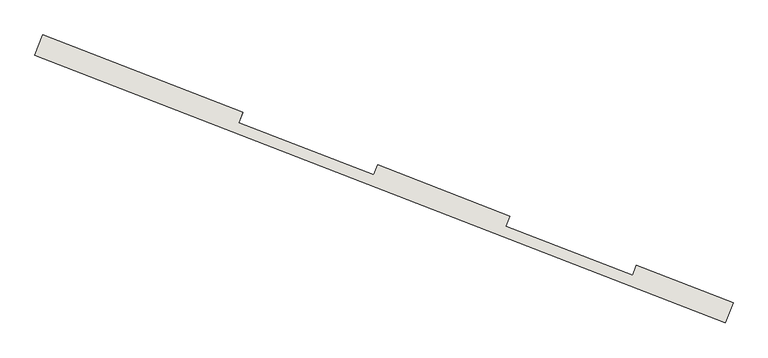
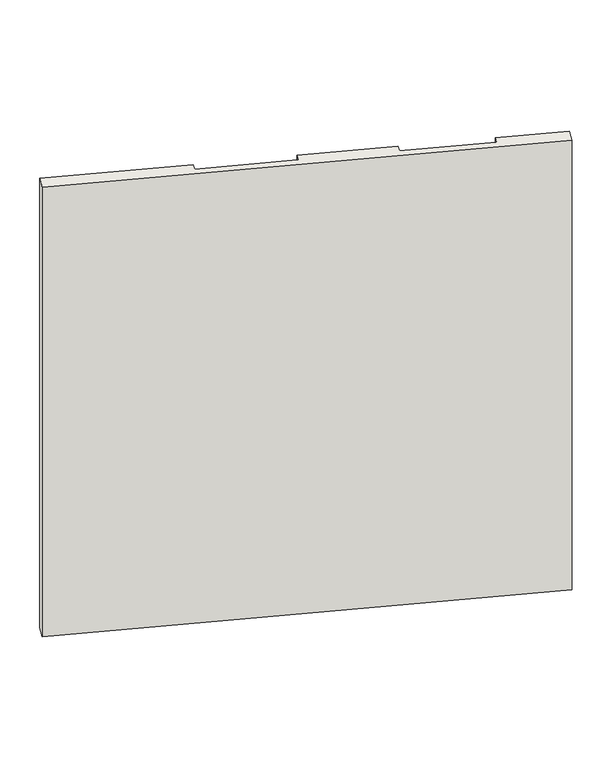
"""IFC4 building model written with IfcOpenShell, lengths in millimetres: wall geometry, kamposite2 : kamposite2."""

from ifc_helpers import new_model, si_unit, origin, place, context, project, spatial, faceted_brep, source, transform, mapped, element, save


def wall_beb20d3e(model_context):
    return source(origin(), model_context, "Body", "Brep", [
        faceted_brep([(-250.3748169, 15163.2898207, 9500.0), (-250.3748169, 15163.2898207, 6000.0), (2938.093022, 13926.3286894, 6000.0), (2938.093022, 13926.3286894, 9500.0), (-214.2063627, 15256.5198745, 6000.0), (-214.2063627, 15256.5198745, 9500.0), (709.2620227, 14898.2617529, 9500.0), (709.2620227, 14898.2617529, 8720.5733633), (-211.8999426, 15255.6251024, 8720.5733633), (-211.8999426, 15255.6251024, 8670.5733633), (709.2620227, 14898.2617529, 8670.5733633), (709.2620227, 14898.2617529, 6961.5733633), (-211.8999426, 15255.6251024, 6961.5733633), (-211.8999426, 15255.6251024, 6911.5733633), (709.2620227, 14898.2617529, 6911.5733633), (709.2620227, 14898.2617529, 6000.0), (2974.2614761, 14019.5587432, 9500.0), (2974.2614761, 14019.5587432, 8720.5733633), (2528.06193, 14192.661162, 8720.5733633), (2528.06193, 14192.661162, 9500.0), (2974.2614761, 14019.5587432, 6911.5733633), (2974.2614761, 14019.5587432, 6000.0), (2528.06193, 14192.661162, 6000.0), (2528.06193, 14192.661162, 6911.5733633), (2974.2614761, 14019.5587432, 8670.5733633), (2974.2614761, 14019.5587432, 6961.5733633), (2528.06193, 14192.661162, 6961.5733633), (2528.06193, 14192.661162, 8670.5733633), (1333.1327149, 14656.2320897, 9500.0), (1942.8904543, 14419.6775245, 9500.0), (1942.8904543, 14419.6775245, 8720.5733633), (1333.1327149, 14656.2320897, 8720.5733633), (1333.1327149, 14656.2320897, 8670.5733633), (1942.8904543, 14419.6775245, 8670.5733633), (1942.8904543, 14419.6775245, 6961.5733633), (1333.1327149, 14656.2320897, 6961.5733633), (1333.1327149, 14656.2320897, 6911.5733633), (1942.8904543, 14419.6775245, 6911.5733633), (1942.8904543, 14419.6775245, 6000.0), (1333.1327149, 14656.2320897, 6000.0), (691.1777956, 14851.646726, 6000.0), (1315.0484878, 14609.6170628, 6000.0), (1924.8062272, 14373.0624976, 6000.0), (2509.977703, 14146.0461351, 6000.0), (2956.1772491, 13972.9437163, 6911.5733633), (2956.1772491, 13972.9437163, 6961.5733633), (2956.1772491, 13972.9437163, 8670.5733633), (2956.1772491, 13972.9437163, 8720.5733633), (2509.977703, 14146.0461351, 9500.0), (1924.8062272, 14373.0624976, 9500.0), (1315.0484878, 14609.6170628, 9500.0), (691.1777956, 14851.646726, 9500.0), (-229.9841696, 15209.0100755, 8670.5733633), (-229.9841696, 15209.0100755, 8720.5733633), (691.1777956, 14851.646726, 8720.5733633), (1315.0484878, 14609.6170628, 8720.5733633), (1924.8062272, 14373.0624976, 8720.5733633), (2509.977703, 14146.0461351, 8720.5733633), (2509.977703, 14146.0461351, 8670.5733633), (2509.977703, 14146.0461351, 6961.5733633), (2509.977703, 14146.0461351, 6911.5733633), (1924.8062272, 14373.0624976, 6911.5733633), (1315.0484878, 14609.6170628, 6911.5733633), (691.1777956, 14851.646726, 6911.5733633), (-229.9841696, 15209.0100755, 6911.5733633), (-229.9841696, 15209.0100755, 6961.5733633), (691.1777956, 14851.646726, 6961.5733633), (691.1777956, 14851.646726, 8670.5733633), (1924.8062272, 14373.0624976, 8670.5733633), (1315.0484878, 14609.6170628, 8670.5733633), (1315.0484878, 14609.6170628, 6961.5733633), (1924.8062272, 14373.0624976, 6961.5733633)], [[[0, 1, 2, 3]], [[4, 5, 6, 7, 8, 9, 10, 11, 12, 13, 14, 15]], [[16, 17, 18, 19]], [[20, 21, 22, 23]], [[24, 25, 26, 27]], [[28, 29, 30, 31]], [[32, 33, 34, 35]], [[36, 37, 38, 39]], [[1, 0, 5, 4]], [[2, 1, 4, 15, 40, 41, 39, 38, 42, 43, 22, 21]], [[3, 2, 21, 20, 44, 45, 25, 24, 46, 47, 17, 16]], [[0, 3, 16, 19, 48, 49, 29, 28, 50, 51, 6, 5]], [[52, 53, 54, 51, 50, 55, 56, 49, 48, 57, 47, 46, 58, 59, 45, 44, 60, 43, 42, 61, 62, 41, 40, 63, 64, 65, 66, 67], [68, 69, 70, 71]], [[53, 52, 9, 8]], [[33, 32, 69, 68]], [[46, 24, 27, 58]], [[9, 52, 67, 10]], [[31, 30, 56, 55]], [[17, 47, 57, 18]], [[53, 8, 7, 54]], [[65, 64, 13, 12]], [[37, 36, 62, 61]], [[44, 20, 23, 60]], [[13, 64, 63, 14]], [[35, 34, 71, 70]], [[25, 45, 59, 26]], [[65, 12, 11, 66]], [[49, 56, 30, 29]], [[61, 42, 38, 37]], [[68, 71, 34, 33]], [[57, 48, 19, 18]], [[59, 58, 27, 26]], [[43, 60, 23, 22]], [[51, 54, 7, 6]], [[63, 40, 15, 14]], [[67, 66, 11, 10]], [[55, 50, 28, 31]], [[41, 62, 36, 39]], [[70, 69, 32, 35]]]),
    ])


if __name__ == "__main__":
    model = new_model("IFC4")
    model_context = context("Model", 3, world=origin())
    ifc_project = project(units=[si_unit("LENGTHUNIT", "METRE", prefix="MILLI")], contexts=[model_context])
    site = spatial("IfcSite", under=ifc_project)
    building = spatial("IfcBuilding", under=site)
    placement = place(None, origin())
    wall_shape = wall_beb20d3e(model_context)
    element("IfcWall", 1, ObjectType="kamposite2 : kamposite2", at=placement, inside=building, context=model_context, shape_type="MappedRepresentation", body=[
        mapped(wall_shape, transform((0.0, 0.0, 0.0), x_axis=(1.0, 0.0, 0.0), y_axis=(0.0, 1.0, 0.0), z_axis=(0.0, 0.0, 1.0))),
    ])
    save(model, "model.ifc")
